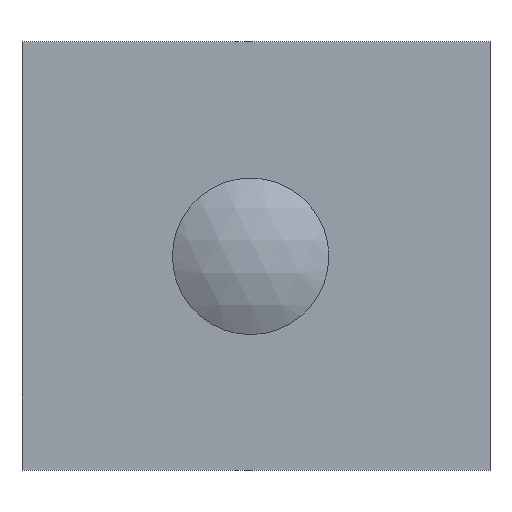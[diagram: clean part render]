
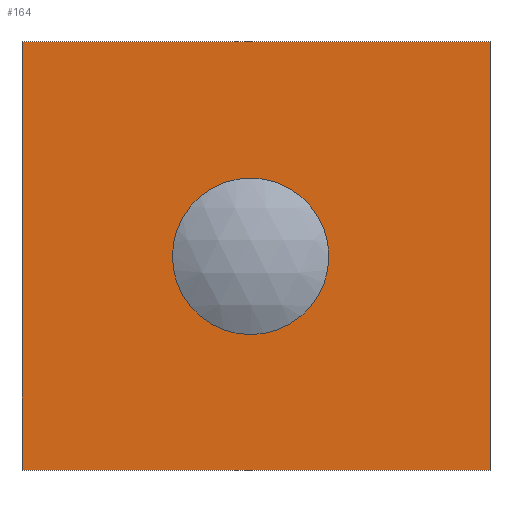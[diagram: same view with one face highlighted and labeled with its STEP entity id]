
A CAD part, top view. The second image highlights one B-rep face of the part: STEP entity #164.
In plain terms, the highlighted planar face has unit normal (0, 0, 1).
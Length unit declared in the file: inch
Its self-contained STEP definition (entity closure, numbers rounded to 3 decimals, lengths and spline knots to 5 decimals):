
#24=CARTESIAN_POINT('',(-0.96395,1.02712,0.76488));
#25=VERTEX_POINT('',#24);
#26=CARTESIAN_POINT('',(-0.745,1.02712,0.76488));
#27=VERTEX_POINT('',#26);
#28=CARTESIAN_POINT('',(-0.9107,1.02712,0.76488));
#29=DIRECTION('',(1.,0.,0.));
#30=VECTOR('',#29,1.);
#31=LINE('',#28,#30);
#32=EDGE_CURVE('',#25,#27,#31,.T.);
#107=CARTESIAN_POINT('',(-0.96395,1.22752,0.76488));
#108=VERTEX_POINT('',#107);
#109=CARTESIAN_POINT('',(-0.96395,4.05315,0.76488));
#110=DIRECTION('',(0.,1.,0.));
#111=VECTOR('',#110,1.);
#112=LINE('',#109,#111);
#113=EDGE_CURVE('',#25,#108,#112,.T.);
#130=ORIENTED_EDGE('',*,*,#32,.T.);
#131=CARTESIAN_POINT('',(-0.745,1.22752,0.76488));
#132=VERTEX_POINT('',#131);
#133=CARTESIAN_POINT('',(-0.745,1.48512,0.76488));
#134=DIRECTION('',(0.,-1.,0.));
#135=VECTOR('',#134,0.716);
#136=LINE('',#133,#135);
#137=EDGE_CURVE('',#132,#27,#136,.T.);
#138=ORIENTED_EDGE('',*,*,#137,.F.);
#139=CARTESIAN_POINT('',(1.39417,1.22752,0.76488));
#140=DIRECTION('',(1.,0.,0.));
#141=VECTOR('',#140,1.);
#142=LINE('',#139,#141);
#143=EDGE_CURVE('',#108,#132,#142,.T.);
#144=ORIENTED_EDGE('',*,*,#143,.F.);
#145=ORIENTED_EDGE('',*,*,#113,.F.);
#146=EDGE_LOOP('',(#130,#138,#144,#145));
#147=FACE_OUTER_BOUND('',#146,.T.);
#148=CARTESIAN_POINT('',(-0.857,1.09051,0.76488));
#149=VERTEX_POINT('',#148);
#150=CARTESIAN_POINT('',(-0.857,1.12712,0.76488));
#151=DIRECTION('',(0.,0.,1.));
#152=DIRECTION('',(0.,1.,0.));
#153=AXIS2_PLACEMENT_3D('',#150,#151,#152);
#154=CIRCLE('',#153,0.03661);
#155=EDGE_CURVE('',#149,#149,#154,.T.);
#156=ORIENTED_EDGE('',*,*,#155,.F.);
#157=EDGE_LOOP('',(#156));
#158=FACE_BOUND('',#157,.T.);
#159=CARTESIAN_POINT('',(-1.475,0.69712,0.76488));
#160=DIRECTION('',(0.,0.,-1.));
#161=DIRECTION('',(-1.,0.,0.));
#162=AXIS2_PLACEMENT_3D('',#159,#160,#161);
#163=PLANE('',#162);
#164=ADVANCED_FACE('',(#147,#158),#163,.F.);
